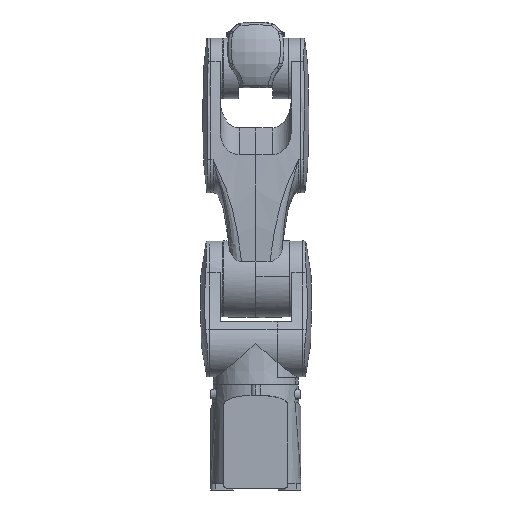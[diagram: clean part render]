
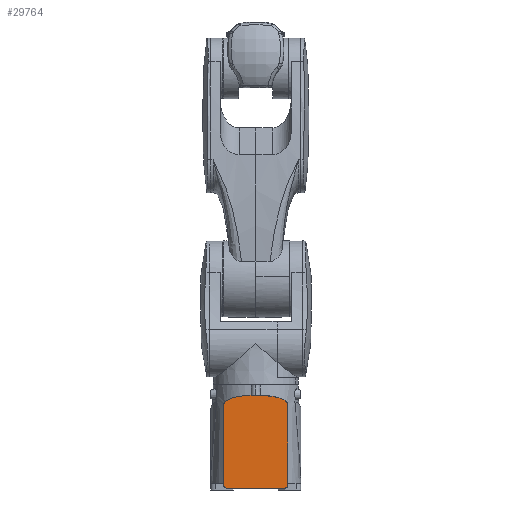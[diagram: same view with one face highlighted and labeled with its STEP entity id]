
A CAD part, left-side view. The second image highlights one B-rep face of the part: STEP entity #29764.
In plain terms, the highlighted planar face has unit normal (-1, 0, 0).
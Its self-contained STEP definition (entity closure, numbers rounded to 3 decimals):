
#985 = DIRECTION ( 'NONE',  ( 0., 0., 1. ) ) ;
#1439 = ORIENTED_EDGE ( 'NONE', *, *, #32061, .F. ) ;
#2740 = CARTESIAN_POINT ( 'NONE',  ( -10.996, 72.475, 213.711 ) ) ;
#3380 = CARTESIAN_POINT ( 'NONE',  ( -10.996, 72.475, 230.412 ) ) ;
#4028 = CARTESIAN_POINT ( 'NONE',  ( -10.996, 207.475, 233.711 ) ) ;
#7551 = DIRECTION ( 'NONE',  ( 0., 0., -1. ) ) ;
#8575 = ORIENTED_EDGE ( 'NONE', *, *, #37128, .F. ) ;
#9057 = CARTESIAN_POINT ( 'NONE',  ( -10.996, 147.475, 233.711 ) ) ;
#9897 = VECTOR ( 'NONE', #7551, 1000. ) ;
#10422 = LINE ( 'NONE', #22577, #32161 ) ;
#11282 = EDGE_CURVE ( 'NONE', #44370, #52075, #38945, .T. ) ;
#11423 = LINE ( 'NONE', #3380, #9897 ) ;
#11461 = DIRECTION ( 'NONE',  ( 0., 1., 0. ) ) ;
#12964 = PLANE ( 'NONE',  #54169 ) ;
#15519 = CARTESIAN_POINT ( 'NONE',  ( -10.996, 207.475, 213.711 ) ) ;
#16392 = VERTEX_POINT ( 'NONE', #15519 ) ;
#17147 = CARTESIAN_POINT ( 'NONE',  ( -10.996, 201.475, 37.711 ) ) ;
#17324 = CARTESIAN_POINT ( 'NONE',  ( -10.996, 78.475, 43.711 ) ) ;
#19175 = DIRECTION ( 'NONE',  ( 0., 0., -1. ) ) ;
#19776 = CARTESIAN_POINT ( 'NONE',  ( -10.996, 207.475, 43.711 ) ) ;
#20410 = ORIENTED_EDGE ( 'NONE', *, *, #55460, .F. ) ;
#21838 = DIRECTION ( 'NONE',  ( 1., 0., 0. ) ) ;
#22577 = CARTESIAN_POINT ( 'NONE',  ( -10.996, 139.975, 37.711 ) ) ;
#22868 = LINE ( 'NONE', #38526, #50614 ) ;
#23017 = VERTEX_POINT ( 'NONE', #33757 ) ;
#26278 = CARTESIAN_POINT ( 'NONE',  ( -10.996, 201.475, 43.711 ) ) ;
#27116 = ORIENTED_EDGE ( 'NONE', *, *, #61673, .F. ) ;
#28052 = EDGE_CURVE ( 'NONE', #16392, #50876, #56347, .T. ) ;
#28084 = EDGE_CURVE ( 'NONE', #44849, #43071, #42846, .T. ) ;
#28266 = FACE_OUTER_BOUND ( 'NONE', #66669, .T. ) ;
#29145 = CARTESIAN_POINT ( 'NONE',  ( -10.996, 132.475, 233.711 ) ) ;
#29276 = VECTOR ( 'NONE', #36757, 1000. ) ;
#29741 = CARTESIAN_POINT ( 'NONE',  ( -10.996, 132.475, 233.711 ) ) ;
#29764 = ADVANCED_FACE ( 'NONE', ( #28266 ), #12964, .F. ) ;
#32061 = EDGE_CURVE ( 'NONE', #23017, #44370, #11423, .T. ) ;
#32161 = VECTOR ( 'NONE', #11461, 1000. ) ;
#33757 = CARTESIAN_POINT ( 'NONE',  ( -10.996, 72.475, 213.711 ) ) ;
#33945 = ORIENTED_EDGE ( 'NONE', *, *, #28084, .F. ) ;
#34151 = DIRECTION ( 'NONE',  ( 1., 0., 0. ) ) ;
#36742 = CARTESIAN_POINT ( 'NONE',  ( -10.996, 72.475, 43.711 ) ) ;
#36757 = DIRECTION ( 'NONE',  ( 0., -1., 0. ) ) ;
#37128 = EDGE_CURVE ( 'NONE', #50876, #54646, #63264, .T. ) ;
#37783 = CARTESIAN_POINT ( 'NONE',  ( -10.996, 99.464, 233.711 ) ) ;
#37864 = DIRECTION ( 'NONE',  ( 0., 0., 1. ) ) ;
#38526 = CARTESIAN_POINT ( 'NONE',  ( -10.996, 207.475, 230.412 ) ) ;
#38945 = CIRCLE ( 'NONE', #56773, 6. ) ;
#41392 = ORIENTED_EDGE ( 'NONE', *, *, #68369, .F. ) ;
#41578 = DIRECTION ( 'NONE',  ( 0., 0., -1. ) ) ;
#41918 = CARTESIAN_POINT ( 'NONE',  ( -10.996, 207.475, 213.711 ) ) ;
#42846 = CIRCLE ( 'NONE', #66287, 6. ) ;
#43071 = VERTEX_POINT ( 'NONE', #19776 ) ;
#44096 = ORIENTED_EDGE ( 'NONE', *, *, #11282, .F. ) ;
#44370 = VERTEX_POINT ( 'NONE', #36742 ) ;
#44849 = VERTEX_POINT ( 'NONE', #17147 ) ;
#50398 = CARTESIAN_POINT ( 'NONE',  ( -10.996, 72.475, 233.711 ) ) ;
#50614 = VECTOR ( 'NONE', #985, 1000. ) ;
#50865 = CARTESIAN_POINT ( 'NONE',  ( -10.996, 99.464, 230.412 ) ) ;
#50876 = VERTEX_POINT ( 'NONE', #9057 ) ;
#52075 = VERTEX_POINT ( 'NONE', #56772 ) ;
#52751 = CARTESIAN_POINT ( 'NONE',  ( -10.996, 147.475, 233.711 ) ) ;
#54169 = AXIS2_PLACEMENT_3D ( 'NONE', #50865, #34151, #19175 ) ;
#54646 = VERTEX_POINT ( 'NONE', #29741 ) ;
#54710 =( BOUNDED_CURVE ( )  B_SPLINE_CURVE ( 2, ( #29145, #50398, #2740 ),
 .UNSPECIFIED., .F., .F. ) 
 B_SPLINE_CURVE_WITH_KNOTS ( ( 3, 3 ),
 ( 0., 0.066 ),
 .UNSPECIFIED. ) 
 CURVE ( )  GEOMETRIC_REPRESENTATION_ITEM ( )  RATIONAL_B_SPLINE_CURVE ( ( 1., 0.707, 1. ) ) 
 REPRESENTATION_ITEM ( '' )  );
#55460 = EDGE_CURVE ( 'NONE', #52075, #44849, #10422, .T. ) ;
#56347 =( BOUNDED_CURVE ( )  B_SPLINE_CURVE ( 2, ( #41918, #4028, #52751 ),
 .UNSPECIFIED., .F., .F. ) 
 B_SPLINE_CURVE_WITH_KNOTS ( ( 3, 3 ),
 ( 0., 0.068 ),
 .UNSPECIFIED. ) 
 CURVE ( )  GEOMETRIC_REPRESENTATION_ITEM ( )  RATIONAL_B_SPLINE_CURVE ( ( 1., 0.707, 1. ) ) 
 REPRESENTATION_ITEM ( '' )  );
#56772 = CARTESIAN_POINT ( 'NONE',  ( -10.996, 78.475, 37.711 ) ) ;
#56773 = AXIS2_PLACEMENT_3D ( 'NONE', #17324, #21838, #37864 ) ;
#57280 = DIRECTION ( 'NONE',  ( 1., 0., 0. ) ) ;
#61673 = EDGE_CURVE ( 'NONE', #43071, #16392, #22868, .T. ) ;
#62996 = ORIENTED_EDGE ( 'NONE', *, *, #28052, .F. ) ;
#63264 = LINE ( 'NONE', #37783, #29276 ) ;
#66287 = AXIS2_PLACEMENT_3D ( 'NONE', #26278, #57280, #41578 ) ;
#66669 = EDGE_LOOP ( 'NONE', ( #8575, #62996, #27116, #33945, #20410, #44096, #1439, #41392 ) ) ;
#68369 = EDGE_CURVE ( 'NONE', #54646, #23017, #54710, .T. ) ;
